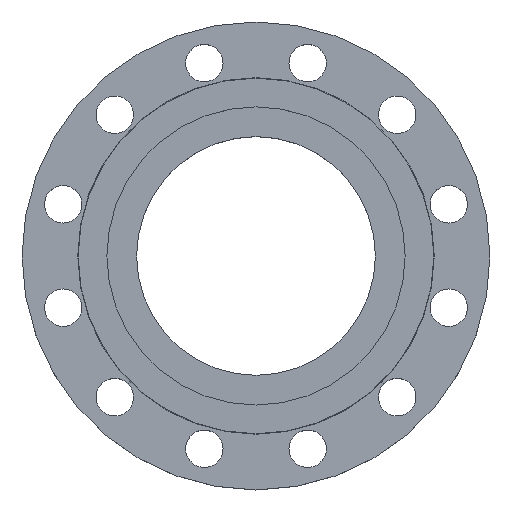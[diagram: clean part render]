
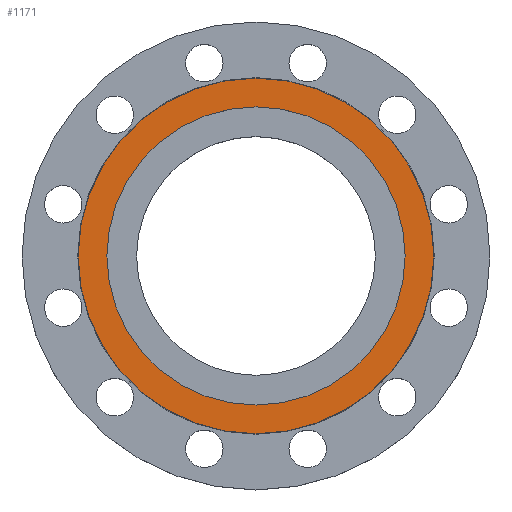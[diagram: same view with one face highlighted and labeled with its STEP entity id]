
A CAD part, top view. The second image highlights one B-rep face of the part: STEP entity #1171.
In plain terms, the highlighted planar face has unit normal (0, 0, 1).
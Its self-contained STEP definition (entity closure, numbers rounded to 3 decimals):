
#50 = CARTESIAN_POINT ( 'NONE',  ( -142.5, 0., 0. ) ) ;
#101 = CARTESIAN_POINT ( 'NONE',  ( -119.5, 0., 0. ) ) ;
#151 = EDGE_CURVE ( 'NONE', #1019, #1332, #747, .T. ) ;
#201 = DIRECTION ( 'NONE',  ( -1., 0., 0. ) ) ;
#202 = DIRECTION ( 'NONE',  ( 0., 0., -1. ) ) ;
#203 = CARTESIAN_POINT ( 'NONE',  ( 0., 0., 0. ) ) ;
#371 = DIRECTION ( 'NONE',  ( 1., 0., 0. ) ) ;
#372 = DIRECTION ( 'NONE',  ( 0., 0., 1. ) ) ;
#374 = CARTESIAN_POINT ( 'NONE',  ( 0., 0., 0. ) ) ;
#375 = PLANE ( 'NONE',  #930 ) ;
#376 = FACE_BOUND ( 'NONE', #1344, .T. ) ;
#377 = FACE_OUTER_BOUND ( 'NONE', #1359, .T. ) ;
#440 = CIRCLE ( 'NONE', #1174, 142.5 ) ;
#480 = EDGE_CURVE ( 'NONE', #1332, #1019, #950, .T. ) ;
#529 = CARTESIAN_POINT ( 'NONE',  ( 119.5, 0., 0. ) ) ;
#537 = AXIS2_PLACEMENT_3D ( 'NONE', #845, #844, #842 ) ;
#560 = EDGE_CURVE ( 'NONE', #742, #1381, #440, .T. ) ;
#642 = CARTESIAN_POINT ( 'NONE',  ( 142.5, 0., 0. ) ) ;
#704 = DIRECTION ( 'NONE',  ( -1., 0., 0. ) ) ;
#705 = DIRECTION ( 'NONE',  ( 0., 0., -1. ) ) ;
#707 = CARTESIAN_POINT ( 'NONE',  ( 0., 0., 0. ) ) ;
#730 = DIRECTION ( 'NONE',  ( -1., 0., 0. ) ) ;
#731 = DIRECTION ( 'NONE',  ( 0., 0., -1. ) ) ;
#732 = CARTESIAN_POINT ( 'NONE',  ( 0., 0., 0. ) ) ;
#742 = VERTEX_POINT ( 'NONE', #642 ) ;
#747 = CIRCLE ( 'NONE', #537, 119.5 ) ;
#822 = AXIS2_PLACEMENT_3D ( 'NONE', #203, #202, #201 ) ;
#823 = CIRCLE ( 'NONE', #822, 142.5 ) ;
#842 = DIRECTION ( 'NONE',  ( -1., 0., 0. ) ) ;
#844 = DIRECTION ( 'NONE',  ( 0., 0., -1. ) ) ;
#845 = CARTESIAN_POINT ( 'NONE',  ( 0., 0., 0. ) ) ;
#930 = AXIS2_PLACEMENT_3D ( 'NONE', #374, #372, #371 ) ;
#950 = CIRCLE ( 'NONE', #961, 119.5 ) ;
#961 = AXIS2_PLACEMENT_3D ( 'NONE', #732, #731, #730 ) ;
#1019 = VERTEX_POINT ( 'NONE', #529 ) ;
#1087 = ORIENTED_EDGE ( 'NONE', *, *, #1294, .F. ) ;
#1088 = ORIENTED_EDGE ( 'NONE', *, *, #560, .F. ) ;
#1090 = ORIENTED_EDGE ( 'NONE', *, *, #480, .T. ) ;
#1091 = ORIENTED_EDGE ( 'NONE', *, *, #151, .T. ) ;
#1171 = ADVANCED_FACE ( 'NONE', ( #377, #376 ), #375, .T. ) ;
#1174 = AXIS2_PLACEMENT_3D ( 'NONE', #707, #705, #704 ) ;
#1294 = EDGE_CURVE ( 'NONE', #1381, #742, #823, .T. ) ;
#1332 = VERTEX_POINT ( 'NONE', #101 ) ;
#1344 = EDGE_LOOP ( 'NONE', ( #1090, #1091 ) ) ;
#1359 = EDGE_LOOP ( 'NONE', ( #1087, #1088 ) ) ;
#1381 = VERTEX_POINT ( 'NONE', #50 ) ;
